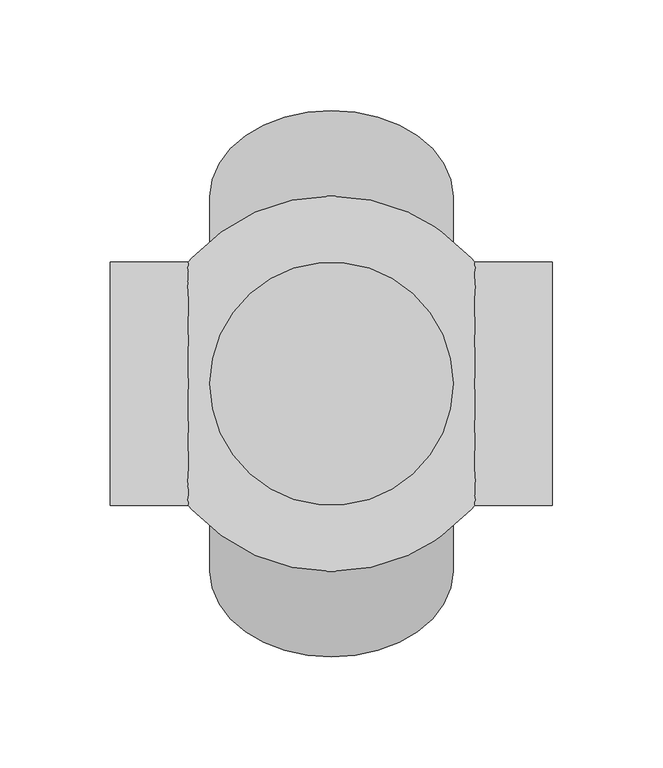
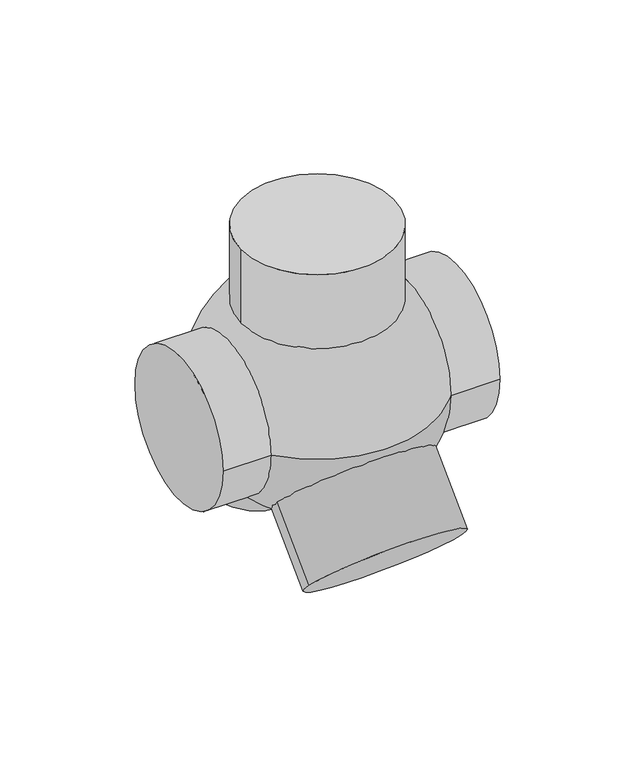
"""IFC4 building model written with IfcOpenShell, lengths in millimetres: pipe fitting geometry, NLRS_52_PIF_UN_PE kogel T-stuk 88,5° drievoudig, aansluitingen 135° sprong_geb : DN60-125 / ø63-125."""

from ifc_helpers import new_model, si_unit, point, frame, origin, origin_with_axes, origin_2d, place, context, project, spatial, circle_curve, ellipse_curve, trimmed, segment, composite_curve, outline, extrude, source, transform, mapped, element, save
from ifc_brep_helpers import plane_surface, cylinder_surface, revolved_surface, advanced_brep


def pipe_fitting_94343e28(model_context):
    return source(origin(), model_context, "Body", "SolidModel", [
        extrude(outline(composite_curve([segment(trimmed(circle_curve(origin_2d(), 55.0), [point((0.0, -55.0))], [point((0.0, 55.0))], False, "CARTESIAN"), True, "CONTINUOUS"), segment(trimmed(circle_curve(origin_2d(), 55.0), [point((0.0, 55.0))], [point((0.0, -55.0))], False, "CARTESIAN"), True, "CONTINUOUS")], self_intersect=False)), frame((0.0, -84.8528137, -84.8528137), z_axis=(0.0, 0.7071067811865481, 0.707106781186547), x_axis=(0.0, -0.707106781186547, 0.7071067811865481)), (0.0, 0.0, 1.0), 120.0),
        extrude(outline(composite_curve([segment(trimmed(circle_curve(origin_2d(), 55.0), [point((0.0, -55.0))], [point((0.0, 55.0))], False, "CARTESIAN"), True, "CONTINUOUS"), segment(trimmed(circle_curve(origin_2d(), 55.0), [point((0.0, 55.0))], [point((0.0, -55.0))], False, "CARTESIAN"), True, "CONTINUOUS")], self_intersect=False)), frame((0.0, 84.8528137, -84.8528137), z_axis=(0.0, -0.7071067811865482, 0.707106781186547), x_axis=(0.0, 0.707106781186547, 0.7071067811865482)), (0.0, 0.0, 1.0), 120.0),
        extrude(outline(composite_curve([segment(trimmed(circle_curve(origin_2d(), 55.0), [point((55.0, 0.0))], [point((-55.0, 0.0))], False, "CARTESIAN"), True, "CONTINUOUS"), segment(trimmed(circle_curve(origin_2d(), 55.0), [point((-55.0, 0.0))], [point((55.0, 0.0))], False, "CARTESIAN"), True, "CONTINUOUS")], self_intersect=False)), origin_with_axes(), (0.0, 0.0, 1.0), 120.0),
        advanced_brep(
        [(0.0, -85.0, 0.0), (-64.807407, -55.0, 0.0), (-64.807407, 55.0, 0.0), (0.0, 85.0, 0.0), (64.807407, 55.0, 0.0), (64.807407, -55.0, 0.0), (100.0, -55.0, 0.0), (100.0, 55.0, 0.0), (-100.0, -55.0, 0.0), (-100.0, 55.0, 0.0)],
        [
            (0, 1, circle_curve(frame((0.0, 0.0, 0.0), z_axis=(0.0, 0.0, -1.0), x_axis=(1.0, 0.0, 0.0)), 85.0)),
            (1, 2, circle_curve(frame((-64.807407, 0.0, 0.0), z_axis=(1.0, 0.0, 0.0), x_axis=(0.0, 1.0, 0.0)), 55.0)),
            (2, 3, circle_curve(frame((0.0, 0.0, 0.0), z_axis=(0.0, 0.0, -1.0), x_axis=(1.0, 0.0, 0.0)), 85.0)),
            (3, 4, circle_curve(frame((0.0, 0.0, 0.0), z_axis=(0.0, 0.0, -1.0), x_axis=(-1.0, 0.0, 0.0)), 85.0)),
            (4, 5, circle_curve(frame((64.807407, 0.0, 0.0), z_axis=(-1.0, 0.0, 0.0), x_axis=(0.0, 1.0, 0.0)), 55.0)),
            (5, 0, circle_curve(frame((0.0, 0.0, 0.0), z_axis=(0.0, 0.0, -1.0), x_axis=(-1.0, 0.0, 0.0)), 85.0)),
            (5, 4, circle_curve(frame((64.807407, 0.0, 0.0), z_axis=(-1.0, 0.0, 0.0), x_axis=(0.0, 1.0, 0.0)), 55.0)),
            (2, 1, circle_curve(frame((-64.807407, 0.0, 0.0), z_axis=(1.0, 0.0, 0.0), x_axis=(0.0, 1.0, 0.0)), 55.0)),
            (6, 7, circle_curve(frame((100.0, 0.0, 0.0), z_axis=(1.0, 0.0, 0.0), x_axis=(0.0, 1.0, 0.0)), 55.0)),
            (7, 6, circle_curve(frame((100.0, 0.0, 0.0), z_axis=(1.0, 0.0, 0.0), x_axis=(0.0, 1.0, 0.0)), 55.0)),
            (8, 9, circle_curve(frame((-100.0, 0.0, 0.0), z_axis=(-1.0, 0.0, 0.0), x_axis=(0.0, 1.0, 0.0)), 55.0)),
            (9, 8, circle_curve(frame((-100.0, 0.0, 0.0), z_axis=(-1.0, 0.0, 0.0), x_axis=(0.0, 1.0, 0.0)), 55.0)),
            (6, 5),
            (4, 7),
            (9, 2),
            (1, 8),
        ],
        [
            revolved_surface(trimmed(ellipse_curve(origin_with_axes(), 85.0, 85.0), [point((0.0, 85.0, 0.0))], [point((0.0, -85.0, 0.0))], True, "CARTESIAN"), (0.0, 125.0, 0.0), (0.0, -1.0, 0.0)),
            plane_surface(frame((100.0, 55.0, 0.0), z_axis=(1.0, 0.0, 0.0), x_axis=(0.0, 0.0, 1.0))),
            plane_surface(frame((-100.0, 55.0, 0.0), z_axis=(-1.0, 0.0, 0.0), x_axis=(0.0, 0.0, -1.0))),
            cylinder_surface(frame((-100.0, 0.0, 0.0), z_axis=(1.0, 0.0, 0.0), x_axis=(0.0, 1.0, 0.0)), 55.0),
        ],
        [
            (0, [[1, 2, 3, 4, 5, 6]]),
            (0, [[-1, -6, 7, -4, -3, 8]]),
            (1, [[9, 10]]),
            (2, [[11, 12]]),
            (3, [[-9, 13, -5, 14]]),
            (3, [[-12, 15, -2, 16]]),
            (3, [[-10, -14, -7, -13]]),
            (3, [[-11, -16, -8, -15]]),
        ],
    ),
    ])


if __name__ == "__main__":
    model = new_model("IFC4")
    model_context = context("Model", 3, world=origin())
    ifc_project = project(units=[si_unit("LENGTHUNIT", "METRE", prefix="MILLI")], contexts=[model_context])
    site = spatial("IfcSite", under=ifc_project)
    building = spatial("IfcBuilding", under=site)
    placement = place(None, origin())
    pipe_fitting_shape = pipe_fitting_94343e28(model_context)
    element("IfcPipeFitting", 1, ObjectType="NLRS_52_PIF_UN_PE kogel T-stuk 88,5° drievoudig, aansluitingen 135° sprong_geb : DN60-125 / ø63-125", at=placement, inside=building, context=model_context, shape_type="MappedRepresentation", body=[
        mapped(pipe_fitting_shape, transform((0.0, 0.0, 0.0), x_axis=(1.0, 0.0, 0.0), y_axis=(0.0, 1.0, 0.0), z_axis=(0.0, 0.0, 1.0))),
    ])
    save(model, "model.ifc")
